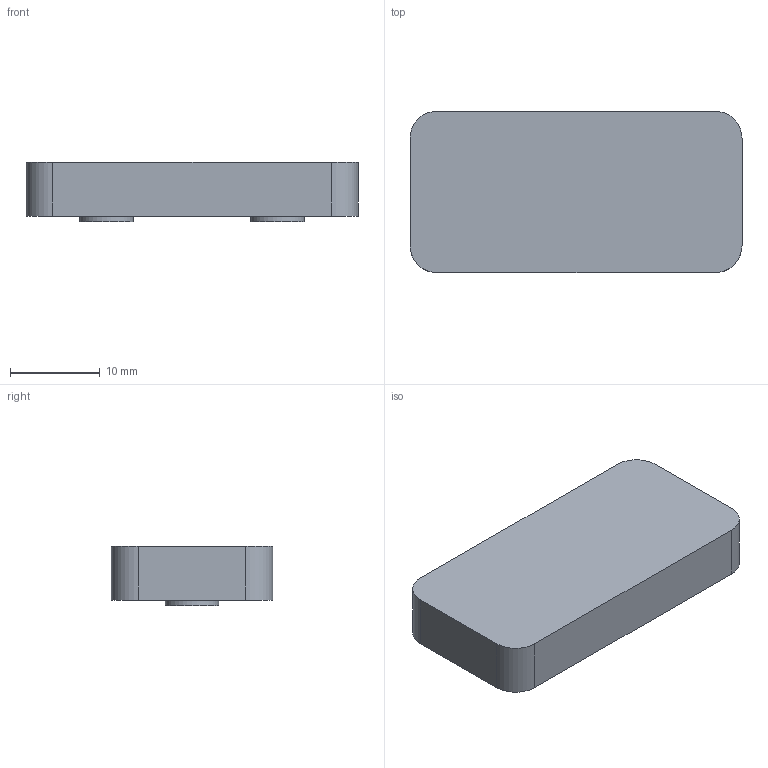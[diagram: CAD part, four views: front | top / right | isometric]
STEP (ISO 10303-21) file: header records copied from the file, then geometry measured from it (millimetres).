
FILE_DESCRIPTION(('Open CASCADE Model'),'2;1');
FILE_NAME('Open CASCADE Shape Model','2026-09-06T14:28:00',('Author'),( 'Open CASCADE'),'Open CASCADE STEP processor 7.9','Open CASCADE 7.9' ,'Unknown');
FILE_SCHEMA(('AUTOMOTIVE_DESIGN { 1 0 10303 214 1 1 1 1 }'));
Length unit declared in the file: millimetre
Products named in the file (1): Open CASCADE STEP translator 7.9 9
Bounding box: 37.05 x 18 x 6.6 mm (x, y, z)
Volume: 1982.2 mm3; surface area: 2664.4 mm2
Topology: 1 solids, 1 shells, 49 faces, 126 edges, 84 vertices
Faces by surface type: plane 39, cylinder 10
Full cylindrical faces by diameter (mm): 6 x2
Entity records: 3080 total; most frequent: CARTESIAN_POINT 632, DIRECTION 418, LINE 266, VECTOR 266, ORIENTED_EDGE 252, PCURVE 252, DEFINITIONAL_REPRESENTATION 252, EDGE_CURVE 126
